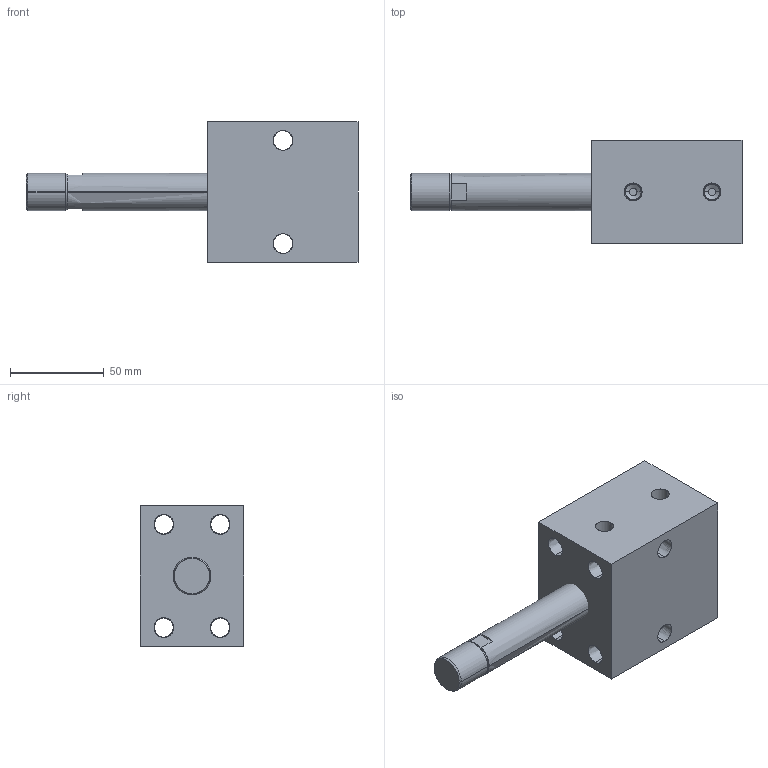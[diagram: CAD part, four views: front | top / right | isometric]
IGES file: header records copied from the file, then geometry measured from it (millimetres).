
Start section: SolidWorks IGES file using analytic representation for surfaces
Global section: file name: C:\Documents and Settings\rajib\Desktop\Rajib\BLOCK CYLINDER HYDRAULIC\0301-0306\IGS 0301-0306\0305.IGS; native system: SolidWorks 2007; preprocessor: SolidWorks 2007; author: rajib; date: 110121.100429; units: millimetre
Bounding box: 177 x 55 x 75 mm (x, y, z)
Surface area: 48711.5 mm2 (no closed solid volume)
Topology: 0 solids, 0 shells, 76 faces, 1704 edges, 1704 vertices
Faces by surface type: revolution 54, bspline 22
